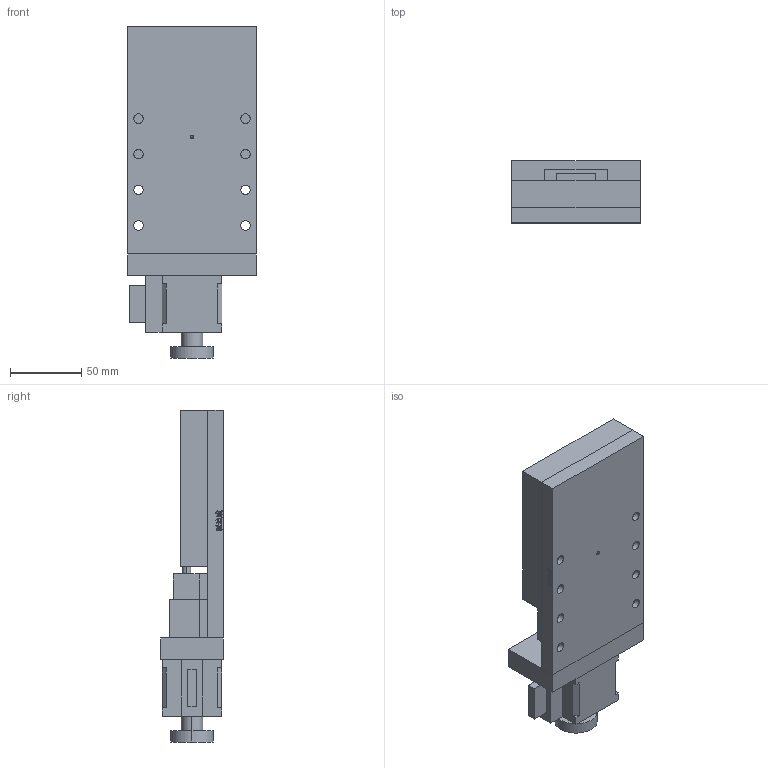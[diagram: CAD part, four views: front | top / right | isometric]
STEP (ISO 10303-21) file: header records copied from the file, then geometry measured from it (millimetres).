
FILE_DESCRIPTION (( 'STEP AP203' ), '1' );
FILE_NAME ('PP110-50.STEP', '2022-08-21T09:06:08', ( '' ), ( '' ), 'SwSTEP 2.0', 'SolidWorks 2020', '' );
FILE_SCHEMA (( 'CONFIG_CONTROL_DESIGN' ));
Length unit declared in the file: millimetre
Products named in the file (7): 錨璃9^PP110-50; 錨璃5^PP110-50; 錨璃8^PP110-50; PP110-50; 錨璃6^PP110-50; 錨璃4^PP110-50; 錨璃7^PP110-50
Assembly tree (6 placements, depth 2):
  PP110-50
    錨璃4^PP110-50
    錨璃5^PP110-50
    錨璃6^PP110-50
    錨璃7^PP110-50
    錨璃8^PP110-50
    錨璃9^PP110-50
Bounding box: 90 x 44 x 233 mm (x, y, z)
Volume: 529059.7 mm3; surface area: 107266.3 mm2
Topology: 6 solids, 6 shells, 405 faces, 1041 edges, 649 vertices
Faces by surface type: plane 183, cylinder 92, bspline 76, cone 54
Entity records: 15702 total; most frequent: CARTESIAN_POINT 5742, ORIENTED_EDGE 1974, DIRECTION 1695, EDGE_CURVE 987, LINE 651, VECTOR 651, VERTEX_POINT 649, AXIS2_PLACEMENT_3D 522
